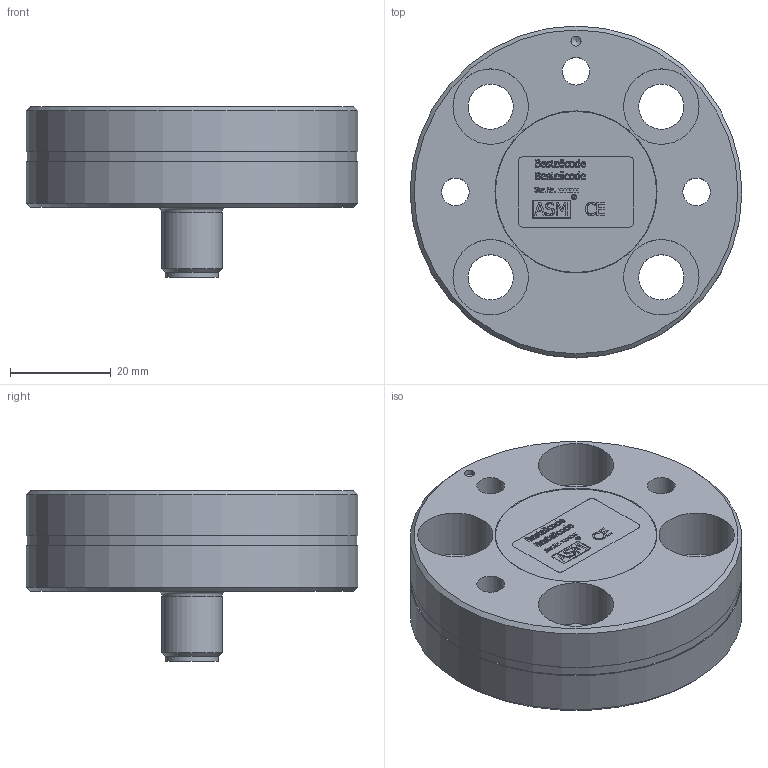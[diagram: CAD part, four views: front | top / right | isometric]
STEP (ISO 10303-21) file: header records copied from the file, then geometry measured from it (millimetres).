
FILE_DESCRIPTION((''),'2;1');
FILE_NAME('K:\Daten\Ptam5-M12A.stp','2013-07-04T12:29:55',('kamp'),(''),'Autodesk Inventor 2008','Autodesk Inventor 2008','');
FILE_SCHEMA(('AUTOMOTIVE_DESIGN { 1 0 10303 214 1 1 1 1 }'));
Length unit declared in the file: millimetre
Products named in the file (1): Bauteil20
Bounding box: 66 x 66 x 34 mm (x, y, z)
Volume: 57246.9 mm3; surface area: 15400.3 mm2
Topology: 1 solids, 1 shells, 737 faces, 1976 edges, 1312 vertices
Faces by surface type: plane 386, bspline 312, cylinder 30, sphere 5, cone 4
Full cylindrical faces by diameter (mm): 0.923 x1, 1 x5, 1.024 x1, 8.3 x1, 10.4 x1, 12 x1, 65.6 x1, 66 x2
Entity records: 25119 total; most frequent: CARTESIAN_POINT 8057, ORIENTED_EDGE 3858, DIRECTION 2318, EDGE_CURVE 1929, VERTEX_POINT 1309, VECTOR 1240, LINE 1240, EDGE_LOOP 866
